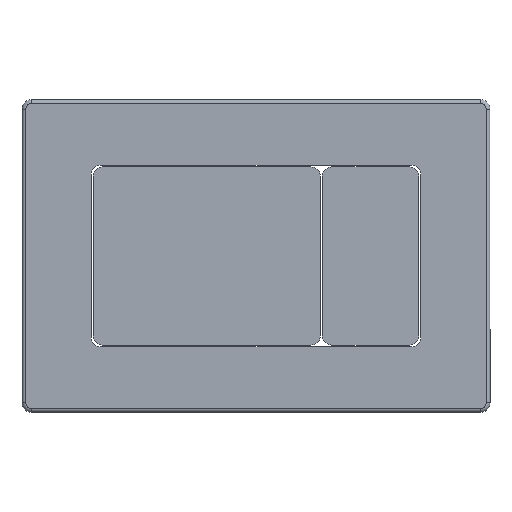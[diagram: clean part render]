
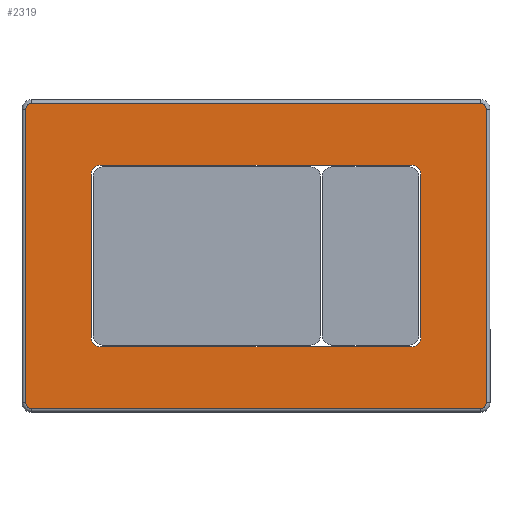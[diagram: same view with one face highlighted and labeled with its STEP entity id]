
A CAD part, top view. The second image highlights one B-rep face of the part: STEP entity #2319.
In plain terms, the highlighted planar face has unit normal (0, 0, 1).
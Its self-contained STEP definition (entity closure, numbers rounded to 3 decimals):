
#12 = LINE ( 'NONE', #1630, #1224 ) ;
#20 = EDGE_CURVE ( 'NONE', #1039, #932, #279, .T. ) ;
#30 = ORIENTED_EDGE ( 'NONE', *, *, #1231, .T. ) ;
#38 = CARTESIAN_POINT ( 'NONE',  ( 0., -48., 10. ) ) ;
#45 = AXIS2_PLACEMENT_3D ( 'NONE', #83, #263, #666 ) ;
#55 = CARTESIAN_POINT ( 'NONE',  ( 0., 80.5, 10. ) ) ;
#59 = DIRECTION ( 'NONE',  ( 1., 0., 0. ) ) ;
#61 = ORIENTED_EDGE ( 'NONE', *, *, #2416, .T. ) ;
#64 = ORIENTED_EDGE ( 'NONE', *, *, #1096, .T. ) ;
#71 = DIRECTION ( 'NONE',  ( 1., 0., 0. ) ) ;
#83 = CARTESIAN_POINT ( 'NONE',  ( 118.5, 77.5, 10. ) ) ;
#123 = VERTEX_POINT ( 'NONE', #1314 ) ;
#134 = DIRECTION ( 'NONE',  ( 0., 1., 0. ) ) ;
#144 = CARTESIAN_POINT ( 'NONE',  ( -118.5, 77.5, 10. ) ) ;
#157 = CARTESIAN_POINT ( 'NONE',  ( 121.5, -77.5, 10. ) ) ;
#203 = CARTESIAN_POINT ( 'NONE',  ( -118.5, -80.5, 10. ) ) ;
#263 = DIRECTION ( 'NONE',  ( 0., 0., 1. ) ) ;
#279 = CIRCLE ( 'NONE', #2552, 5. ) ;
#283 = CARTESIAN_POINT ( 'NONE',  ( -82., -43., 10. ) ) ;
#291 = ORIENTED_EDGE ( 'NONE', *, *, #2268, .T. ) ;
#332 = VERTEX_POINT ( 'NONE', #1270 ) ;
#342 = CARTESIAN_POINT ( 'NONE',  ( -118.5, -77.5, 10. ) ) ;
#372 = EDGE_LOOP ( 'NONE', ( #64, #376, #1809, #1451, #430, #1079, #824, #2404 ) ) ;
#376 = ORIENTED_EDGE ( 'NONE', *, *, #902, .T. ) ;
#377 = VERTEX_POINT ( 'NONE', #157 ) ;
#405 = DIRECTION ( 'NONE',  ( 1., 0., 0. ) ) ;
#408 = VERTEX_POINT ( 'NONE', #721 ) ;
#430 = ORIENTED_EDGE ( 'NONE', *, *, #782, .T. ) ;
#435 = CARTESIAN_POINT ( 'NONE',  ( 0., 0., 10. ) ) ;
#448 = CIRCLE ( 'NONE', #1167, 3. ) ;
#450 = VECTOR ( 'NONE', #2539, 1000. ) ;
#486 = FACE_OUTER_BOUND ( 'NONE', #372, .T. ) ;
#525 = AXIS2_PLACEMENT_3D ( 'NONE', #283, #1833, #59 ) ;
#542 = CARTESIAN_POINT ( 'NONE',  ( 121.5, 77.5, 10. ) ) ;
#549 = DIRECTION ( 'NONE',  ( 0., -1., 0. ) ) ;
#560 = ORIENTED_EDGE ( 'NONE', *, *, #20, .T. ) ;
#564 = DIRECTION ( 'NONE',  ( 0., 1., 0. ) ) ;
#566 = DIRECTION ( 'NONE',  ( 1., 0., 0. ) ) ;
#575 = CARTESIAN_POINT ( 'NONE',  ( 82., -48., 10. ) ) ;
#583 = ORIENTED_EDGE ( 'NONE', *, *, #2192, .T. ) ;
#595 = EDGE_CURVE ( 'NONE', #1370, #1831, #1768, .T. ) ;
#596 = VERTEX_POINT ( 'NONE', #203 ) ;
#664 = CARTESIAN_POINT ( 'NONE',  ( -82., 43., 10. ) ) ;
#666 = DIRECTION ( 'NONE',  ( 1., 0., 0. ) ) ;
#721 = CARTESIAN_POINT ( 'NONE',  ( 87., -43., 10. ) ) ;
#781 = VECTOR ( 'NONE', #549, 1000. ) ;
#782 = EDGE_CURVE ( 'NONE', #596, #123, #12, .T. ) ;
#813 = CIRCLE ( 'NONE', #1342, 3. ) ;
#824 = ORIENTED_EDGE ( 'NONE', *, *, #1866, .T. ) ;
#858 = VERTEX_POINT ( 'NONE', #2460 ) ;
#863 = DIRECTION ( 'NONE',  ( -1., 0., 0. ) ) ;
#867 = CIRCLE ( 'NONE', #1063, 5. ) ;
#886 = CIRCLE ( 'NONE', #996, 3. ) ;
#902 = EDGE_CURVE ( 'NONE', #1939, #984, #886, .T. ) ;
#932 = VERTEX_POINT ( 'NONE', #2317 ) ;
#951 = CIRCLE ( 'NONE', #1111, 5. ) ;
#976 = CARTESIAN_POINT ( 'NONE',  ( -87., 43., 10. ) ) ;
#984 = VERTEX_POINT ( 'NONE', #1510 ) ;
#996 = AXIS2_PLACEMENT_3D ( 'NONE', #144, #2498, #1325 ) ;
#1022 = CARTESIAN_POINT ( 'NONE',  ( 82., 43., 10. ) ) ;
#1023 = EDGE_CURVE ( 'NONE', #408, #2471, #2545, .T. ) ;
#1031 = PLANE ( 'NONE',  #2099 ) ;
#1039 = VERTEX_POINT ( 'NONE', #976 ) ;
#1050 = CARTESIAN_POINT ( 'NONE',  ( -121.5, -77.5, 10. ) ) ;
#1051 = VERTEX_POINT ( 'NONE', #1358 ) ;
#1063 = AXIS2_PLACEMENT_3D ( 'NONE', #1022, #1215, #1981 ) ;
#1065 = DIRECTION ( 'NONE',  ( 0., 0., 1. ) ) ;
#1068 = EDGE_CURVE ( 'NONE', #1831, #408, #951, .T. ) ;
#1079 = ORIENTED_EDGE ( 'NONE', *, *, #2003, .T. ) ;
#1096 = EDGE_CURVE ( 'NONE', #332, #1939, #1700, .T. ) ;
#1107 = LINE ( 'NONE', #542, #450 ) ;
#1111 = AXIS2_PLACEMENT_3D ( 'NONE', #1632, #1065, #71 ) ;
#1126 = VERTEX_POINT ( 'NONE', #1050 ) ;
#1146 = CIRCLE ( 'NONE', #45, 3. ) ;
#1167 = AXIS2_PLACEMENT_3D ( 'NONE', #1625, #1863, #566 ) ;
#1176 = CARTESIAN_POINT ( 'NONE',  ( -118.5, 80.5, 10. ) ) ;
#1200 = CARTESIAN_POINT ( 'NONE',  ( -87., -43., 10. ) ) ;
#1215 = DIRECTION ( 'NONE',  ( 0., 0., -1. ) ) ;
#1222 = VECTOR ( 'NONE', #2056, 1000. ) ;
#1224 = VECTOR ( 'NONE', #1640, 1000. ) ;
#1231 = EDGE_CURVE ( 'NONE', #932, #1051, #2167, .T. ) ;
#1270 = CARTESIAN_POINT ( 'NONE',  ( 118.5, 80.5, 10. ) ) ;
#1271 = EDGE_LOOP ( 'NONE', ( #583, #560, #30, #291, #1636, #1858, #2407, #61 ) ) ;
#1301 = CARTESIAN_POINT ( 'NONE',  ( 0., 48., 10. ) ) ;
#1310 = VECTOR ( 'NONE', #863, 1000. ) ;
#1314 = CARTESIAN_POINT ( 'NONE',  ( 118.5, -80.5, 10. ) ) ;
#1318 = CARTESIAN_POINT ( 'NONE',  ( -82., -48., 10. ) ) ;
#1325 = DIRECTION ( 'NONE',  ( 1., 0., 0. ) ) ;
#1342 = AXIS2_PLACEMENT_3D ( 'NONE', #342, #2499, #2102 ) ;
#1358 = CARTESIAN_POINT ( 'NONE',  ( 82., 48., 10. ) ) ;
#1370 = VERTEX_POINT ( 'NONE', #1318 ) ;
#1451 = ORIENTED_EDGE ( 'NONE', *, *, #1828, .T. ) ;
#1510 = CARTESIAN_POINT ( 'NONE',  ( -121.5, 77.5, 10. ) ) ;
#1546 = CARTESIAN_POINT ( 'NONE',  ( 87., 0., 10. ) ) ;
#1590 = DIRECTION ( 'NONE',  ( 1., 0., 0. ) ) ;
#1619 = DIRECTION ( 'NONE',  ( 0., 0., 1. ) ) ;
#1625 = CARTESIAN_POINT ( 'NONE',  ( 118.5, -77.5, 10. ) ) ;
#1630 = CARTESIAN_POINT ( 'NONE',  ( 118.5, -80.5, 10. ) ) ;
#1632 = CARTESIAN_POINT ( 'NONE',  ( 82., -43., 10. ) ) ;
#1636 = ORIENTED_EDGE ( 'NONE', *, *, #1023, .F. ) ;
#1640 = DIRECTION ( 'NONE',  ( 1., 0., 0. ) ) ;
#1700 = LINE ( 'NONE', #55, #1310 ) ;
#1719 = FACE_BOUND ( 'NONE', #1271, .T. ) ;
#1768 = LINE ( 'NONE', #38, #1974 ) ;
#1809 = ORIENTED_EDGE ( 'NONE', *, *, #1827, .T. ) ;
#1827 = EDGE_CURVE ( 'NONE', #984, #1126, #2153, .T. ) ;
#1828 = EDGE_CURVE ( 'NONE', #1126, #596, #813, .T. ) ;
#1831 = VERTEX_POINT ( 'NONE', #575 ) ;
#1833 = DIRECTION ( 'NONE',  ( 0., 0., -1. ) ) ;
#1858 = ORIENTED_EDGE ( 'NONE', *, *, #1068, .F. ) ;
#1863 = DIRECTION ( 'NONE',  ( 0., 0., 1. ) ) ;
#1866 = EDGE_CURVE ( 'NONE', #377, #858, #1107, .T. ) ;
#1894 = VECTOR ( 'NONE', #564, 1000. ) ;
#1913 = CARTESIAN_POINT ( 'NONE',  ( -87., 0., 10. ) ) ;
#1939 = VERTEX_POINT ( 'NONE', #1176 ) ;
#1974 = VECTOR ( 'NONE', #405, 1000. ) ;
#1981 = DIRECTION ( 'NONE',  ( 1., 0., 0. ) ) ;
#2000 = VECTOR ( 'NONE', #134, 1000. ) ;
#2003 = EDGE_CURVE ( 'NONE', #123, #377, #448, .T. ) ;
#2015 = DIRECTION ( 'NONE',  ( 0., 0., -1. ) ) ;
#2041 = DIRECTION ( 'NONE',  ( 1., 0., 0. ) ) ;
#2056 = DIRECTION ( 'NONE',  ( 1., 0., 0. ) ) ;
#2099 = AXIS2_PLACEMENT_3D ( 'NONE', #435, #1619, #1590 ) ;
#2102 = DIRECTION ( 'NONE',  ( 1., 0., 0. ) ) ;
#2153 = LINE ( 'NONE', #2307, #781 ) ;
#2167 = LINE ( 'NONE', #1301, #1222 ) ;
#2178 = LINE ( 'NONE', #1913, #1894 ) ;
#2185 = CIRCLE ( 'NONE', #525, 5. ) ;
#2192 = EDGE_CURVE ( 'NONE', #2352, #1039, #2178, .T. ) ;
#2268 = EDGE_CURVE ( 'NONE', #1051, #2471, #867, .T. ) ;
#2307 = CARTESIAN_POINT ( 'NONE',  ( -121.5, 0., 10. ) ) ;
#2317 = CARTESIAN_POINT ( 'NONE',  ( -82., 48., 10. ) ) ;
#2319 = ADVANCED_FACE ( 'NONE', ( #486, #1719 ), #1031, .T. ) ;
#2352 = VERTEX_POINT ( 'NONE', #1200 ) ;
#2404 = ORIENTED_EDGE ( 'NONE', *, *, #2429, .T. ) ;
#2407 = ORIENTED_EDGE ( 'NONE', *, *, #595, .F. ) ;
#2416 = EDGE_CURVE ( 'NONE', #1370, #2352, #2185, .T. ) ;
#2429 = EDGE_CURVE ( 'NONE', #858, #332, #1146, .T. ) ;
#2459 = CARTESIAN_POINT ( 'NONE',  ( 87., 43., 10. ) ) ;
#2460 = CARTESIAN_POINT ( 'NONE',  ( 121.5, 77.5, 10. ) ) ;
#2471 = VERTEX_POINT ( 'NONE', #2459 ) ;
#2498 = DIRECTION ( 'NONE',  ( 0., 0., 1. ) ) ;
#2499 = DIRECTION ( 'NONE',  ( 0., 0., 1. ) ) ;
#2539 = DIRECTION ( 'NONE',  ( 0., 1., 0. ) ) ;
#2545 = LINE ( 'NONE', #1546, #2000 ) ;
#2552 = AXIS2_PLACEMENT_3D ( 'NONE', #664, #2015, #2041 ) ;
